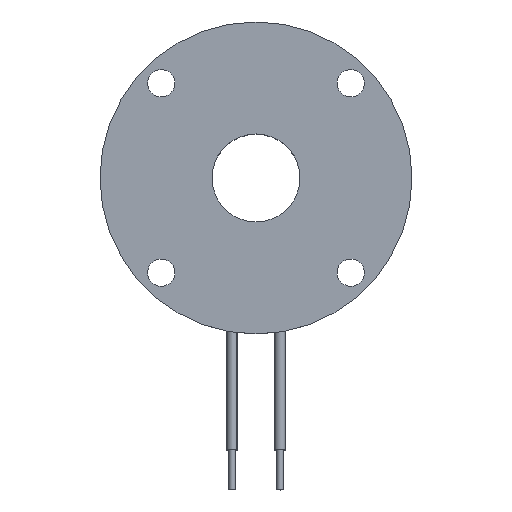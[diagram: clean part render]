
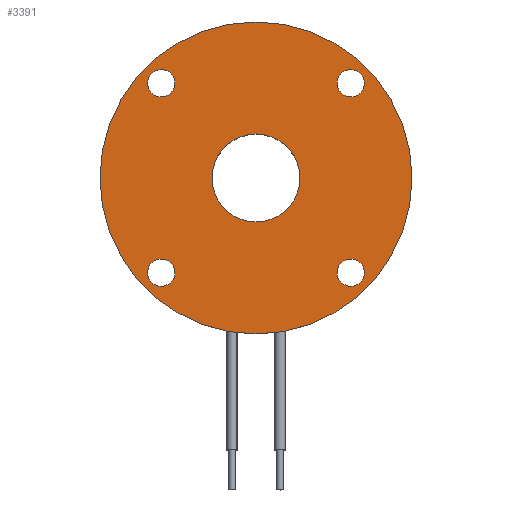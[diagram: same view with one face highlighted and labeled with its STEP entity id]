
A CAD part, top view. The second image highlights one B-rep face of the part: STEP entity #3391.
In plain terms, the highlighted planar face has unit normal (0, 0, 1).
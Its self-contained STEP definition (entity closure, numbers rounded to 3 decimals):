
#27 = VERTEX_POINT ( 'NONE', #3444 ) ;
#84 = AXIS2_PLACEMENT_3D ( 'NONE', #759, #1517, #3028 ) ;
#128 = DIRECTION ( 'NONE',  ( 0., 0., -1. ) ) ;
#132 = DIRECTION ( 'NONE',  ( -1., 0., 0. ) ) ;
#159 = DIRECTION ( 'NONE',  ( 0., 0., -1. ) ) ;
#182 = CIRCLE ( 'NONE', #3412, 1.7 ) ;
#185 = FACE_BOUND ( 'NONE', #4550, .T. ) ;
#199 = DIRECTION ( 'NONE',  ( -1., 0., 0. ) ) ;
#215 = DIRECTION ( 'NONE',  ( -1., 0., 0. ) ) ;
#320 = EDGE_LOOP ( 'NONE', ( #3006, #4764 ) ) ;
#325 = VERTEX_POINT ( 'NONE', #1027 ) ;
#368 = VERTEX_POINT ( 'NONE', #2977 ) ;
#514 = CARTESIAN_POINT ( 'NONE',  ( 0., 0., 0. ) ) ;
#567 = AXIS2_PLACEMENT_3D ( 'NONE', #621, #3313, #199 ) ;
#599 = AXIS2_PLACEMENT_3D ( 'NONE', #514, #3510, #132 ) ;
#617 = CARTESIAN_POINT ( 'NONE',  ( 11.844, 11.844, 0. ) ) ;
#621 = CARTESIAN_POINT ( 'NONE',  ( 0., 0., 0. ) ) ;
#632 = DIRECTION ( 'NONE',  ( 0., 0., -1. ) ) ;
#670 = ORIENTED_EDGE ( 'NONE', *, *, #1417, .T. ) ;
#681 = CARTESIAN_POINT ( 'NONE',  ( -11.844, 11.844, 0. ) ) ;
#685 = CIRCLE ( 'NONE', #4699, 1.7 ) ;
#710 = EDGE_CURVE ( 'NONE', #4709, #27, #1596, .T. ) ;
#757 = VERTEX_POINT ( 'NONE', #4677 ) ;
#759 = CARTESIAN_POINT ( 'NONE',  ( 11.844, -11.844, 0. ) ) ;
#821 = CARTESIAN_POINT ( 'NONE',  ( -10.144, -11.844, 0. ) ) ;
#855 = EDGE_CURVE ( 'NONE', #325, #368, #685, .T. ) ;
#914 = EDGE_CURVE ( 'NONE', #1806, #1431, #182, .T. ) ;
#920 = FACE_BOUND ( 'NONE', #1108, .T. ) ;
#963 = CARTESIAN_POINT ( 'NONE',  ( 10.144, 11.844, 0. ) ) ;
#986 = AXIS2_PLACEMENT_3D ( 'NONE', #2855, #159, #1261 ) ;
#1027 = CARTESIAN_POINT ( 'NONE',  ( -10.144, 11.844, 0. ) ) ;
#1108 = EDGE_LOOP ( 'NONE', ( #4825, #1916 ) ) ;
#1169 = CARTESIAN_POINT ( 'NONE',  ( 13.544, 11.844, 0. ) ) ;
#1175 = DIRECTION ( 'NONE',  ( -1., 0., 0. ) ) ;
#1230 = DIRECTION ( 'NONE',  ( -1., 0., 0. ) ) ;
#1238 = AXIS2_PLACEMENT_3D ( 'NONE', #617, #2857, #1757 ) ;
#1261 = DIRECTION ( 'NONE',  ( -1., 0., 0. ) ) ;
#1265 = EDGE_CURVE ( 'NONE', #3039, #1320, #2772, .T. ) ;
#1283 = FACE_BOUND ( 'NONE', #2930, .T. ) ;
#1320 = VERTEX_POINT ( 'NONE', #1879 ) ;
#1354 = CARTESIAN_POINT ( 'NONE',  ( 11.844, 11.844, 0. ) ) ;
#1417 = EDGE_CURVE ( 'NONE', #3646, #3721, #2073, .T. ) ;
#1431 = VERTEX_POINT ( 'NONE', #1169 ) ;
#1484 = EDGE_CURVE ( 'NONE', #1320, #3039, #2247, .T. ) ;
#1491 = CIRCLE ( 'NONE', #4254, 1.7 ) ;
#1512 = VERTEX_POINT ( 'NONE', #3900 ) ;
#1517 = DIRECTION ( 'NONE',  ( 0., 0., -1. ) ) ;
#1596 = CIRCLE ( 'NONE', #2630, 1.7 ) ;
#1613 = EDGE_LOOP ( 'NONE', ( #670, #4385 ) ) ;
#1628 = FACE_OUTER_BOUND ( 'NONE', #320, .T. ) ;
#1711 = CIRCLE ( 'NONE', #1238, 1.7 ) ;
#1757 = DIRECTION ( 'NONE',  ( -1., 0., 0. ) ) ;
#1806 = VERTEX_POINT ( 'NONE', #963 ) ;
#1821 = EDGE_LOOP ( 'NONE', ( #4193, #1904 ) ) ;
#1879 = CARTESIAN_POINT ( 'NONE',  ( 13.544, -11.844, 0. ) ) ;
#1904 = ORIENTED_EDGE ( 'NONE', *, *, #855, .T. ) ;
#1915 = CARTESIAN_POINT ( 'NONE',  ( -5.5, 0., 0. ) ) ;
#1916 = ORIENTED_EDGE ( 'NONE', *, *, #3293, .T. ) ;
#2062 = CARTESIAN_POINT ( 'NONE',  ( -11.844, 11.844, 0. ) ) ;
#2073 = CIRCLE ( 'NONE', #599, 5.5 ) ;
#2118 = DIRECTION ( 'NONE',  ( -1., 0., 0. ) ) ;
#2247 = CIRCLE ( 'NONE', #986, 1.7 ) ;
#2398 = FACE_BOUND ( 'NONE', #1821, .T. ) ;
#2405 = CARTESIAN_POINT ( 'NONE',  ( 0., 0., 0. ) ) ;
#2420 = DIRECTION ( 'NONE',  ( -1., 0., 0. ) ) ;
#2433 = AXIS2_PLACEMENT_3D ( 'NONE', #2405, #3182, #1175 ) ;
#2518 = DIRECTION ( 'NONE',  ( 0., 0., -1. ) ) ;
#2601 = CARTESIAN_POINT ( 'NONE',  ( 5.5, 0., 0. ) ) ;
#2630 = AXIS2_PLACEMENT_3D ( 'NONE', #3756, #4577, #2680 ) ;
#2640 = DIRECTION ( 'NONE',  ( -1., 0., 0. ) ) ;
#2680 = DIRECTION ( 'NONE',  ( -1., 0., 0. ) ) ;
#2686 = AXIS2_PLACEMENT_3D ( 'NONE', #3588, #3565, #215 ) ;
#2697 = CIRCLE ( 'NONE', #567, 19.5 ) ;
#2772 = CIRCLE ( 'NONE', #84, 1.7 ) ;
#2773 = DIRECTION ( 'NONE',  ( 0., 0., -1. ) ) ;
#2855 = CARTESIAN_POINT ( 'NONE',  ( 11.844, -11.844, 0. ) ) ;
#2857 = DIRECTION ( 'NONE',  ( 0., 0., -1. ) ) ;
#2914 = CARTESIAN_POINT ( 'NONE',  ( -11.844, -11.844, 0. ) ) ;
#2930 = EDGE_LOOP ( 'NONE', ( #3735, #4372 ) ) ;
#2977 = CARTESIAN_POINT ( 'NONE',  ( -13.544, 11.844, 0. ) ) ;
#3001 = ORIENTED_EDGE ( 'NONE', *, *, #710, .T. ) ;
#3006 = ORIENTED_EDGE ( 'NONE', *, *, #4563, .F. ) ;
#3028 = DIRECTION ( 'NONE',  ( -1., 0., 0. ) ) ;
#3039 = VERTEX_POINT ( 'NONE', #4165 ) ;
#3104 = CARTESIAN_POINT ( 'NONE',  ( 0., 19.5, 0. ) ) ;
#3182 = DIRECTION ( 'NONE',  ( 0., 0., -1. ) ) ;
#3200 = FACE_BOUND ( 'NONE', #1613, .T. ) ;
#3293 = EDGE_CURVE ( 'NONE', #1431, #1806, #1711, .T. ) ;
#3313 = DIRECTION ( 'NONE',  ( 0., 0., -1. ) ) ;
#3391 = ADVANCED_FACE ( 'NONE', ( #920, #1283, #185, #2398, #1628, #3200 ), #3581, .F. ) ;
#3412 = AXIS2_PLACEMENT_3D ( 'NONE', #1354, #632, #2118 ) ;
#3444 = CARTESIAN_POINT ( 'NONE',  ( -13.544, -11.844, 0. ) ) ;
#3510 = DIRECTION ( 'NONE',  ( 0., 0., -1. ) ) ;
#3523 = CIRCLE ( 'NONE', #3607, 1.7 ) ;
#3564 = ORIENTED_EDGE ( 'NONE', *, *, #4047, .T. ) ;
#3565 = DIRECTION ( 'NONE',  ( 0., 0., -1. ) ) ;
#3581 = PLANE ( 'NONE',  #4715 ) ;
#3588 = CARTESIAN_POINT ( 'NONE',  ( 0., 0., 0. ) ) ;
#3607 = AXIS2_PLACEMENT_3D ( 'NONE', #2914, #4822, #3657 ) ;
#3646 = VERTEX_POINT ( 'NONE', #1915 ) ;
#3657 = DIRECTION ( 'NONE',  ( -1., 0., 0. ) ) ;
#3721 = VERTEX_POINT ( 'NONE', #2601 ) ;
#3735 = ORIENTED_EDGE ( 'NONE', *, *, #1265, .T. ) ;
#3756 = CARTESIAN_POINT ( 'NONE',  ( -11.844, -11.844, 0. ) ) ;
#3900 = CARTESIAN_POINT ( 'NONE',  ( 19.5, 0., 0. ) ) ;
#4047 = EDGE_CURVE ( 'NONE', #27, #4709, #3523, .T. ) ;
#4165 = CARTESIAN_POINT ( 'NONE',  ( 10.144, -11.844, 0. ) ) ;
#4175 = CIRCLE ( 'NONE', #2686, 5.5 ) ;
#4193 = ORIENTED_EDGE ( 'NONE', *, *, #4786, .T. ) ;
#4254 = AXIS2_PLACEMENT_3D ( 'NONE', #2062, #2773, #1230 ) ;
#4354 = EDGE_CURVE ( 'NONE', #1512, #757, #2697, .T. ) ;
#4372 = ORIENTED_EDGE ( 'NONE', *, *, #1484, .T. ) ;
#4385 = ORIENTED_EDGE ( 'NONE', *, *, #4627, .T. ) ;
#4550 = EDGE_LOOP ( 'NONE', ( #3564, #3001 ) ) ;
#4563 = EDGE_CURVE ( 'NONE', #757, #1512, #4566, .T. ) ;
#4566 = CIRCLE ( 'NONE', #2433, 19.5 ) ;
#4577 = DIRECTION ( 'NONE',  ( 0., 0., -1. ) ) ;
#4627 = EDGE_CURVE ( 'NONE', #3721, #3646, #4175, .T. ) ;
#4677 = CARTESIAN_POINT ( 'NONE',  ( -19.5, 0., 0. ) ) ;
#4699 = AXIS2_PLACEMENT_3D ( 'NONE', #681, #2518, #2640 ) ;
#4709 = VERTEX_POINT ( 'NONE', #821 ) ;
#4715 = AXIS2_PLACEMENT_3D ( 'NONE', #3104, #128, #2420 ) ;
#4764 = ORIENTED_EDGE ( 'NONE', *, *, #4354, .F. ) ;
#4786 = EDGE_CURVE ( 'NONE', #368, #325, #1491, .T. ) ;
#4822 = DIRECTION ( 'NONE',  ( 0., 0., -1. ) ) ;
#4825 = ORIENTED_EDGE ( 'NONE', *, *, #914, .T. ) ;
